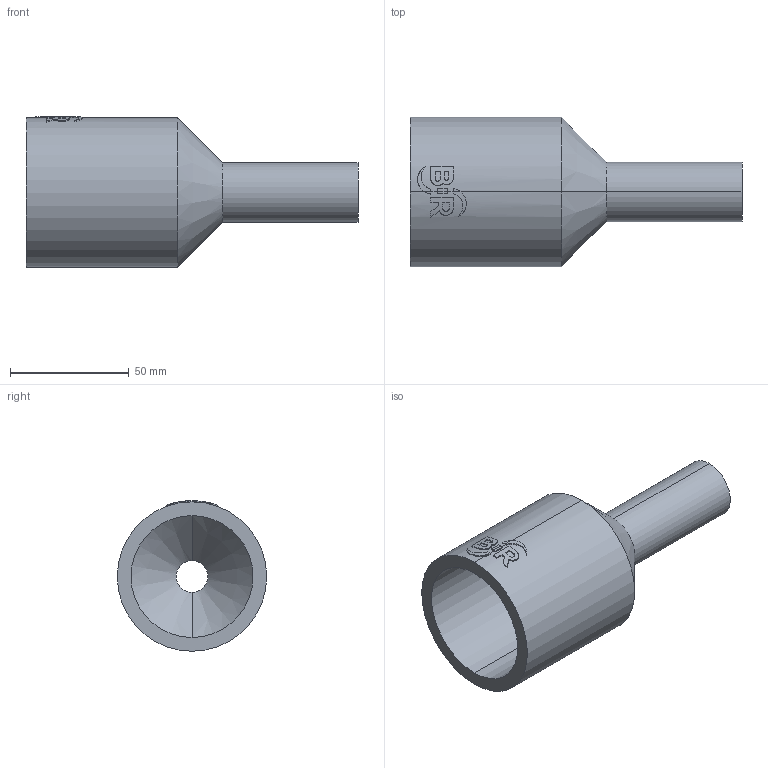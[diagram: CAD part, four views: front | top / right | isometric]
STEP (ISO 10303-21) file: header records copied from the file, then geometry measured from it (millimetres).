
FILE_DESCRIPTION (( 'STEP AP214' ), '1' );
FILE_NAME ('2323110735.STEP', '2018-07-20T09:12:51', ( '' ), ( '' ), 'SwSTEP 2.0', 'SolidWorks 2017', '' );
FILE_SCHEMA (( 'AUTOMOTIVE_DESIGN' ));
Length unit declared in the file: millimetre
Products named in the file (1): 2323110735
Bounding box: 140 x 63 x 63.46 mm (x, y, z)
Volume: 104589.7 mm3; surface area: 37518.1 mm2
Topology: 1 solids, 1 shells, 63 faces, 160 edges, 104 vertices
Faces by surface type: cylinder 31, plane 28, cone 4
Entity records: 3060 total; most frequent: CARTESIAN_POINT 851, ORIENTED_EDGE 320, DIRECTION 296, EDGE_CURVE 160, AXIS2_PLACEMENT_3D 112, VERTEX_POINT 104, LINE 72, VECTOR 72
